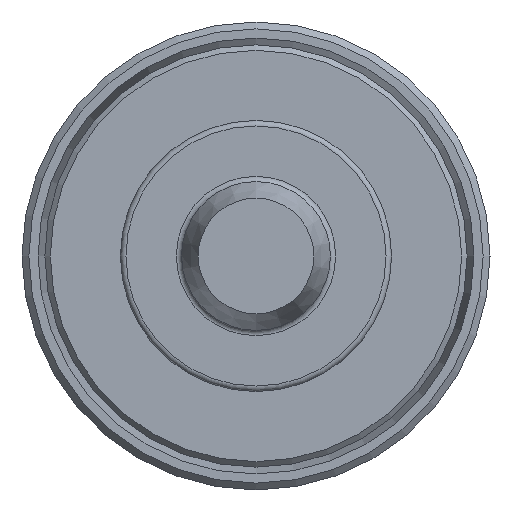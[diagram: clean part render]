
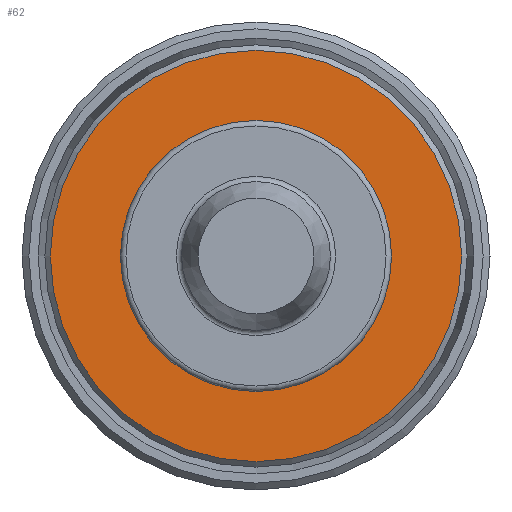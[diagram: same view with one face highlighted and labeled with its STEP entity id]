
A CAD part, left-side view. The second image highlights one B-rep face of the part: STEP entity #62.
In plain terms, the highlighted planar face has unit normal (-1, 0, 0).
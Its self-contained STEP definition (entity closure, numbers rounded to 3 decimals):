
#62 = ADVANCED_FACE( '', ( #135, #136 ), #137, .T. );
#135 = FACE_BOUND( '', #214, .T. );
#136 = FACE_OUTER_BOUND( '', #215, .T. );
#137 = PLANE( '', #216 );
#214 = EDGE_LOOP( '', ( #309 ) );
#215 = EDGE_LOOP( '', ( #310 ) );
#216 = AXIS2_PLACEMENT_3D( '', #311, #312, #313 );
#309 = ORIENTED_EDGE( '', *, *, #381, .F. );
#310 = ORIENTED_EDGE( '', *, *, #387, .T. );
#311 = CARTESIAN_POINT( '', ( -29.35, 0., 7.67 ) );
#312 = DIRECTION( '', ( -1., 0., 0. ) );
#313 = DIRECTION( '', ( 0., 0., -1. ) );
#381 = EDGE_CURVE( '', #438, #438, #439, .T. );
#387 = EDGE_CURVE( '', #447, #447, #448, .T. );
#438 = VERTEX_POINT( '', #507 );
#439 = CIRCLE( '', #508, 4.925 );
#447 = VERTEX_POINT( '', #516 );
#448 = CIRCLE( '', #517, 7.47 );
#507 = CARTESIAN_POINT( '', ( -29.35, 0., -4.925 ) );
#508 = AXIS2_PLACEMENT_3D( '', #575, #576, #577 );
#516 = CARTESIAN_POINT( '', ( -29.35, 0., -7.47 ) );
#517 = AXIS2_PLACEMENT_3D( '', #584, #585, #586 );
#575 = CARTESIAN_POINT( '', ( -29.35, 0., 0. ) );
#576 = DIRECTION( '', ( -1., 0., 0. ) );
#577 = DIRECTION( '', ( 0., 0., -1. ) );
#584 = CARTESIAN_POINT( '', ( -29.35, 0., 0. ) );
#585 = DIRECTION( '', ( -1., 0., 0. ) );
#586 = DIRECTION( '', ( 0., 0., -1. ) );
